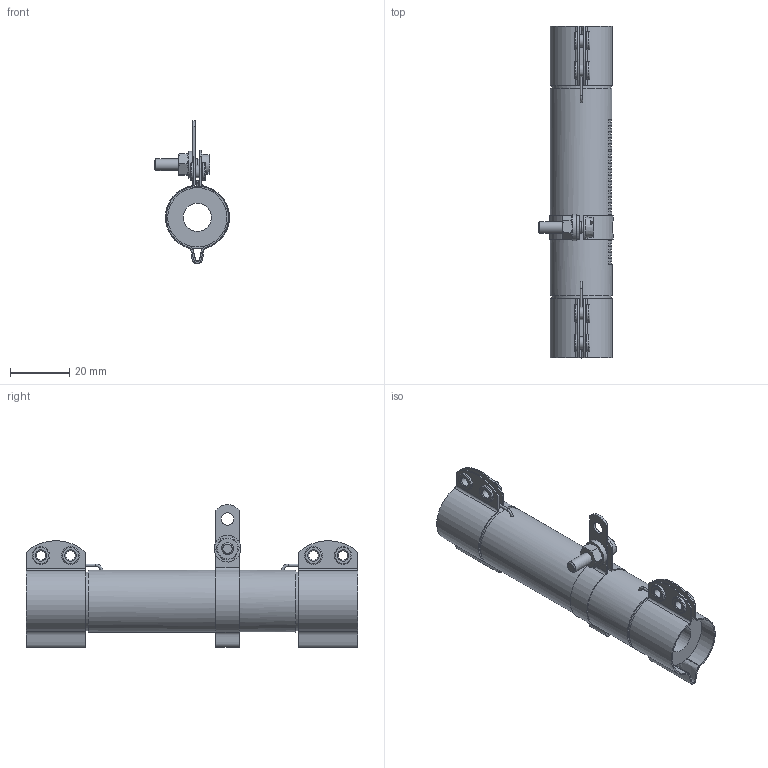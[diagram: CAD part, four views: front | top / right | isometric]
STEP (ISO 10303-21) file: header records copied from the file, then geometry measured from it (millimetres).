
FILE_DESCRIPTION(/* description */ (''),/* implementation_level */ '2;1');
FILE_NAME(/* name */ 'C:\_Vault\Dati\CATALOGO\RC-RS\RC-RS R TF\RSR TF 60.stp',/* time_stamp */ '2014-03-21T09:06:38+01:00',/* author */ ('stefano'),/* organization */ (''),/* preprocessor_version */ 'ST-DEVELOPER v15.2',/* originating_system */ 'Autodesk Inventor 2014',/* authorisation */ '');
FILE_SCHEMA (('AUTOMOTIVE_DESIGN { 1 0 10303 214 3 1 1 }'));
Length unit declared in the file: millimetre
Products named in the file (1): RSR TF 60
Bounding box: 25.25 x 112 x 48.2 mm (x, y, z)
Volume: 29198.8 mm3; surface area: 16163 mm2
Topology: 1 solids, 5 shells, 319 faces, 840 edges, 549 vertices
Faces by surface type: plane 178, cylinder 93, torus 20, cone 16, bspline 12
Full cylindrical faces by diameter (mm): 0.4 x2, 0.8 x4, 3.2 x4, 3.571 x1, 4 x2, 4.2 x11, 4.3 x1, 6 x8, 9 x1, 9.5 x1, 20 x2, 21 x1
Entity records: 10529 total; most frequent: CARTESIAN_POINT 2483, DIRECTION 1618, ORIENTED_EDGE 1522, EDGE_CURVE 761, AXIS2_PLACEMENT_3D 622, VERTEX_POINT 531, EDGE_LOOP 428, LINE 374
